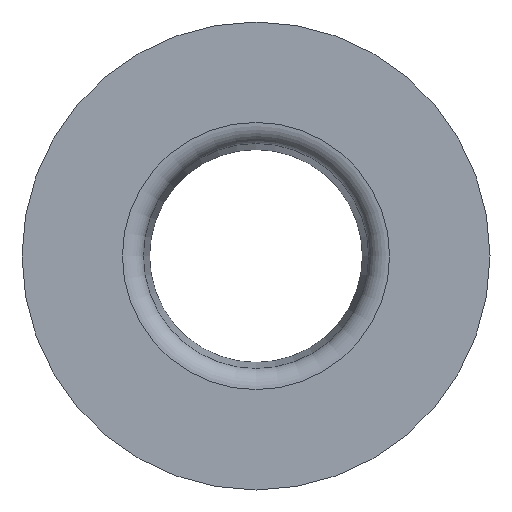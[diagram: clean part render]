
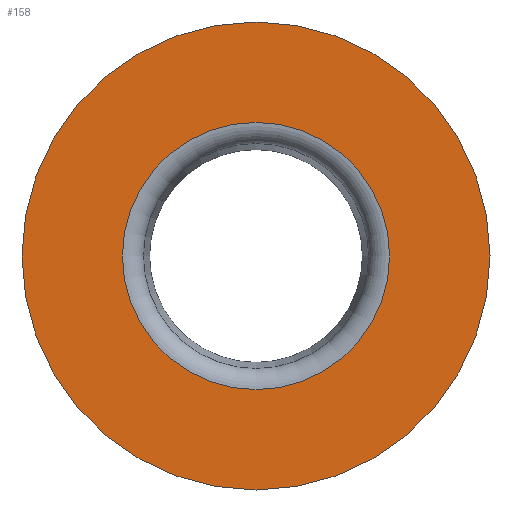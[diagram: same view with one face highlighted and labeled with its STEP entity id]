
A CAD part, left-side view. The second image highlights one B-rep face of the part: STEP entity #158.
In plain terms, the highlighted planar face has unit normal (-1, 0, 0).
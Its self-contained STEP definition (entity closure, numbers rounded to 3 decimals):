
#33=FACE_BOUND('',#52,.T.);
#36=PLANE('',#196);
#40=FACE_OUTER_BOUND('',#51,.T.);
#51=EDGE_LOOP('',(#118));
#52=EDGE_LOOP('',(#119));
#64=CIRCLE('',#192,6.28);
#68=CIRCLE('',#197,11.);
#79=VERTEX_POINT('',#279);
#82=VERTEX_POINT('',#287);
#92=EDGE_CURVE('',#79,#79,#64,.T.);
#96=EDGE_CURVE('',#82,#82,#68,.T.);
#118=ORIENTED_EDGE('',*,*,#96,.F.);
#119=ORIENTED_EDGE('',*,*,#92,.T.);
#158=ADVANCED_FACE('',(#40,#33),#36,.T.);
#192=AXIS2_PLACEMENT_3D('',#280,#221,#222);
#196=AXIS2_PLACEMENT_3D('',#286,#229,#230);
#197=AXIS2_PLACEMENT_3D('',#288,#231,#232);
#221=DIRECTION('center_axis',(1.,0.,0.));
#222=DIRECTION('ref_axis',(0.,0.,-1.));
#229=DIRECTION('center_axis',(-1.,0.,0.));
#230=DIRECTION('ref_axis',(0.,0.,1.));
#231=DIRECTION('center_axis',(1.,0.,0.));
#232=DIRECTION('ref_axis',(0.,0.,-1.));
#279=CARTESIAN_POINT('',(0.,0.,6.28));
#280=CARTESIAN_POINT('Origin',(0.,0.,0.));
#286=CARTESIAN_POINT('Origin',(0.,-11.,0.));
#287=CARTESIAN_POINT('',(0.,11.,0.));
#288=CARTESIAN_POINT('Origin',(0.,0.,0.));
